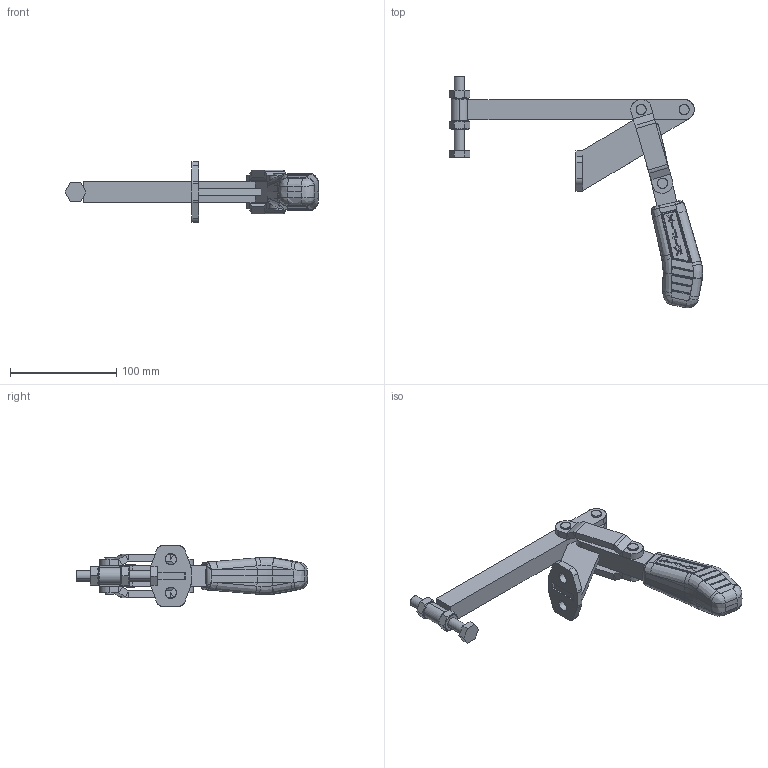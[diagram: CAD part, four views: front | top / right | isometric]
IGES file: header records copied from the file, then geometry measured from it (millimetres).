
Start section: SolidWorks IGES file using analytic representation for surfaces
Global section: file name: C:\Projetos\Grampos\KF-725\KF-725 F\KF-725 F.IGS; native system: SolidWorks 2014; preprocessor: SolidWorks 2014; author: Ricardo; date: 150716.151317; units: millimetre
Bounding box: 238.86 x 218.01 x 57.2 mm (x, y, z)
Surface area: 84593.9 mm2 (no closed solid volume)
Topology: 0 solids, 0 shells, 771 faces, 8994 edges, 8964 vertices
Faces by surface type: bspline 524, revolution 247
